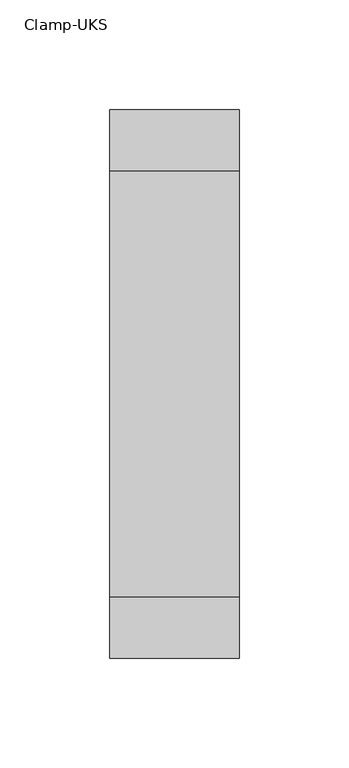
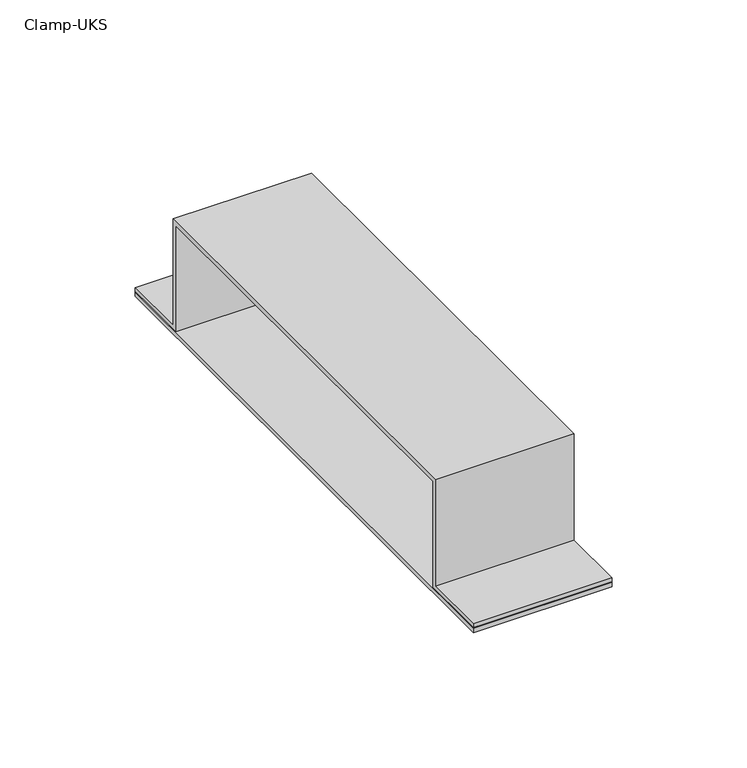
"""IFC4 building model written with IfcOpenShell, lengths in millimetres: cable carrier fitting geometry, Electrical-Installations_Hager_Clamp-UKS : Clamp-UKS."""

import ifcopenshell
import ifcopenshell.guid

model = None  # the IFC model being written
_history = None  # IfcOwnerHistory: only IFC2X3 demands one
_inside = {}  # id of a spatial element -> (the spatial element, [elements in it])
_under = {}  # id of a project, library or spatial element -> (it, [spatial elements below it])
_declared = {}  # id of a project -> (the project, [libraries it declares])
_typed = {}  # id of a type object -> (the type object, [elements of that type])
_made_of = {}  # id of a material, layer set ... -> (it, [elements and type objects made of it])


def new_model(schema):
    """Start an empty IFC model of exactly this schema.

    Asked for "IFC4X3", IfcOpenShell would pick the latest addendum, in which some entities
    have other attributes; the version numbers below select the first issue.
    IFC2X3 requires an IfcOwnerHistory on every rooted entity: one is made here for all.
    """
    global model, _history
    if schema == "IFC4X3":
        model = ifcopenshell.file(schema_version=(4, 3, 0, 0))
    else:
        model = ifcopenshell.file(schema=schema)
    _inside.clear()
    _under.clear()
    _declared.clear()
    _typed.clear()
    _made_of.clear()
    _history = None
    if model.schema == "IFC2X3":
        org = make("IfcOrganization", Name="unknown")
        user = make(
            "IfcPersonAndOrganization",
            ThePerson=make("IfcPerson", FamilyName="unknown"),
            TheOrganization=org,
        )
        app = make(
            "IfcApplication",
            ApplicationDeveloper=org,
            Version="unknown",
            ApplicationFullName="unknown",
            ApplicationIdentifier="unknown",
        )
        _history = make(
            "IfcOwnerHistory",
            OwningUser=user,
            OwningApplication=app,
            ChangeAction="ADDED",
            CreationDate=0,
        )
    return model


def make(cls, **values):
    """One entity of the class cls with the attributes given. An attribute that is None is left unset."""
    return model.create_entity(
        cls, **{name: value for name, value in values.items() if value is not None}
    )


def rooted(cls, **values):
    """An entity with a GlobalId (a new one), such as an element, a storey or a relation."""
    return make(cls, GlobalId=ifcopenshell.guid.new(), OwnerHistory=_history, **values)


def si_unit(unit_type, name, prefix=None):
    """IfcSIUnit, for example si_unit("LENGTHUNIT", "METRE", prefix="MILLI")."""
    return make("IfcSIUnit", UnitType=unit_type, Prefix=prefix, Name=name)


def assignment(units):
    """IfcUnitAssignment: the units of a project."""
    return None if units is None else make("IfcUnitAssignment", Units=units)


def point(xyz):
    """IfcCartesianPoint."""
    return None if xyz is None else make("IfcCartesianPoint", Coordinates=xyz)


def direction(xyz):
    """IfcDirection."""
    return None if xyz is None else make("IfcDirection", DirectionRatios=xyz)


def frame(location, z_axis=None, x_axis=None):
    """IfcAxis2Placement3D, a coordinate frame: its origin and axes. An axis left out is left unset."""
    return make(
        "IfcAxis2Placement3D",
        Location=point(location),
        Axis=direction(z_axis),
        RefDirection=direction(x_axis),
    )


def origin():
    """The frame at (0, 0, 0) with its axes left unset."""
    return frame((0.0, 0.0, 0.0))


def place(relative_to, where):
    """IfcLocalPlacement: puts the frame where relative to a parent placement (None: the world)."""
    return make(
        "IfcLocalPlacement", PlacementRelTo=relative_to, RelativePlacement=where
    )


def context(
    kind, dimensions, precision=None, world=None, true_north=None, identifier=None
):
    """IfcGeometricRepresentationContext, for example the 3D "Model" context."""
    return make(
        "IfcGeometricRepresentationContext",
        ContextIdentifier=identifier,
        ContextType=kind,
        CoordinateSpaceDimension=dimensions,
        Precision=precision,
        WorldCoordinateSystem=world,
        TrueNorth=true_north,
    )


def project(units=None, contexts=None):
    """IfcProject with its units and contexts."""
    return rooted(
        "IfcProject",
        Name="project",
        RepresentationContexts=contexts,
        UnitsInContext=assignment(units),
    )


def spatial(cls, under=None, at=None, **own):
    """A site, building, storey or space (cls), placed at a placement, below another one or the project."""
    s = rooted(cls, ObjectPlacement=at, **own)
    if under is not None:
        _under.setdefault(under.id(), (under, []))[1].append(s)
    return s


def polyline(points):
    """IfcPolyline through the points."""
    return make("IfcPolyline", Points=[point(p) for p in points])


def outline(outer, holes=None, kind="AREA"):
    """IfcArbitraryClosedProfileDef: a profile drawn as a closed curve; with holes, ...WithVoids."""
    if holes is None:
        return make("IfcArbitraryClosedProfileDef", ProfileType=kind, OuterCurve=outer)
    return make(
        "IfcArbitraryProfileDefWithVoids",
        ProfileType=kind,
        OuterCurve=outer,
        InnerCurves=holes,
    )


def extrude(swept, where, along, depth):
    """IfcExtrudedAreaSolid: the profile swept, set in the frame where, extruded along a direction by depth."""
    return make(
        "IfcExtrudedAreaSolid",
        SweptArea=swept,
        Position=where,
        ExtrudedDirection=direction(along),
        Depth=depth,
    )


def shape(context_of_items, identifier, shape_type, items):
    """IfcShapeRepresentation: the items that make up one representation, for example the "Body"."""
    return make(
        "IfcShapeRepresentation",
        ContextOfItems=context_of_items,
        RepresentationIdentifier=identifier,
        RepresentationType=shape_type,
        Items=items,
    )


def source(mapping_origin, context_of_items, identifier, shape_type, items):
    """IfcRepresentationMap: a shape defined once, which mapped items show again and again."""
    return make(
        "IfcRepresentationMap",
        MappingOrigin=mapping_origin,
        MappedRepresentation=shape(context_of_items, identifier, shape_type, items),
    )


def transform(
    local_origin,
    x_axis=None,
    y_axis=None,
    z_axis=None,
    scale=None,
    scale2=None,
    scale3=None,
    uniform=True,
):
    """IfcCartesianTransformationOperator3D, or its non-uniform kind. x_axis, y_axis, z_axis: its Axis1, 2, 3."""
    if uniform:
        return make(
            "IfcCartesianTransformationOperator3D",
            Axis1=direction(x_axis),
            Axis2=direction(y_axis),
            LocalOrigin=point(local_origin),
            Scale=scale,
            Axis3=direction(z_axis),
        )
    return make(
        "IfcCartesianTransformationOperator3DnonUniform",
        Axis1=direction(x_axis),
        Axis2=direction(y_axis),
        LocalOrigin=point(local_origin),
        Scale=scale,
        Axis3=direction(z_axis),
        Scale2=scale2,
        Scale3=scale3,
    )


def mapped(mapping_source, mapping_target):
    """IfcMappedItem: shows the shape of a source again, moved by a transform."""
    return make(
        "IfcMappedItem", MappingSource=mapping_source, MappingTarget=mapping_target
    )


def made_of(thing, what):
    """Note that an element or type object is made of a material, layer set ...; save() writes the relation."""
    if what is not None:
        _made_of.setdefault(what.id(), (what, []))[1].append(thing)
    return thing


def element(
    cls,
    number,
    at=None,
    inside=None,
    cuts=None,
    type_object=None,
    material=None,
    context=None,
    identifier="Body",
    shape_type=None,
    held_by="IfcProductDefinitionShape",
    body=None,
    shapes=None,
    **own,
):
    """One element of the class cls, such as IfcWall. Its Tag is "e" and its number.

    at: its placement. inside: the storey or other place that contains it. cuts: it is an
    opening in that element (IfcRelVoidsElement). A single representation is given by context,
    identifier, shape_type and body (its items); several are given by shapes. held_by: the class
    of the entity that holds the representations. save() writes the other relations.
    """
    e = rooted(cls, Tag="e%d" % number, ObjectPlacement=at, **own)
    if body is not None:
        shapes = [shape(context, identifier, shape_type, body)]
    if shapes is not None:
        e.Representation = make(held_by, Representations=shapes)
    if inside is not None:
        _inside.setdefault(inside.id(), (inside, []))[1].append(e)
    if cuts is not None:
        rooted(
            "IfcRelVoidsElement", RelatingBuildingElement=cuts, RelatedOpeningElement=e
        )
    if type_object is not None:
        _typed.setdefault(type_object.id(), (type_object, []))[1].append(e)
    return made_of(e, material)


def aggregate(whole, parts):
    """IfcRelAggregates: a whole, such as a stair, and the parts it consists of."""
    return rooted("IfcRelAggregates", RelatingObject=whole, RelatedObjects=parts)


def save(model, path):
    """Write the relations noted so far, then the file.

    IfcRelAggregates (storeys below a building ...), IfcRelContainedInSpatialStructure (elements
    in a storey), IfcRelDefinesByType, IfcRelAssociatesMaterial and IfcRelDeclares: one each for
    every whole, place, type object, material and project.
    """
    for whole, parts in _under.values():
        aggregate(whole, parts)
    for where, things in _inside.values():
        rooted(
            "IfcRelContainedInSpatialStructure",
            RelatedElements=things,
            RelatingStructure=where,
        )
    for kind, things in _typed.values():
        rooted("IfcRelDefinesByType", RelatedObjects=things, RelatingType=kind)
    for what, things in _made_of.values():
        rooted("IfcRelAssociatesMaterial", RelatedObjects=things, RelatingMaterial=what)
    for by, libraries in _declared.values():
        rooted("IfcRelDeclares", RelatingContext=by, RelatedDefinitions=libraries)
    model.write(path)


def clamp_uks_7d713c9f(model_context):
    return source(origin(), model_context, "Body", "SweptSolid", [
        extrude(outline(polyline([(59.0, 125.0), (59.0, -125.0), (0.0, -125.0), (0.0, 125.0), (59.0, 125.0)])), frame((0.0, 0.0, -26.0), z_axis=(0.0, 0.0, 1.0), x_axis=(1.0, 0.0, 0.0)), (0.0, 0.0, 1.0), 2.0),
        extrude(outline(polyline([(95.0, 24.0), (-95.0, 24.0), (-95.0, -24.0), (-125.0, -24.0), (-125.0, -21.96), (-97.0, -21.96), (-97.0, 26.0), (97.0, 26.0), (97.0, -21.96), (125.0, -21.96), (125.0, -24.0), (95.0, -24.0), (95.0, 24.0)])), frame((0.0, 0.0, 0.0), z_axis=(1.0, 0.0, 0.0), x_axis=(0.0, 1.0, 0.0)), (0.0, 0.0, 1.0), 59.0),
    ])


if __name__ == "__main__":
    model = new_model("IFC4")
    model_context = context("Model", 3, world=origin())
    ifc_project = project(units=[si_unit("LENGTHUNIT", "METRE", prefix="MILLI")], contexts=[model_context])
    site = spatial("IfcSite", under=ifc_project)
    building = spatial("IfcBuilding", under=site)
    placement = place(None, origin())
    clamp_uks_shape = clamp_uks_7d713c9f(model_context)
    element("IfcCableCarrierFitting", 1, ObjectType="Electrical-Installations_Hager_Clamp-UKS : Clamp-UKS", at=placement, inside=building, context=model_context, shape_type="MappedRepresentation", body=[
        mapped(clamp_uks_shape, transform((0.0, 0.0, 0.0), x_axis=(1.0, 0.0, 0.0), y_axis=(0.0, 1.0, 0.0), z_axis=(0.0, 0.0, 1.0))),
    ])
    save(model, "model.ifc")
